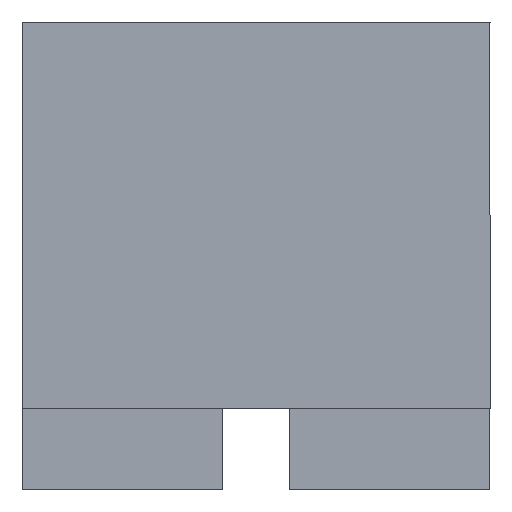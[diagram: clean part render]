
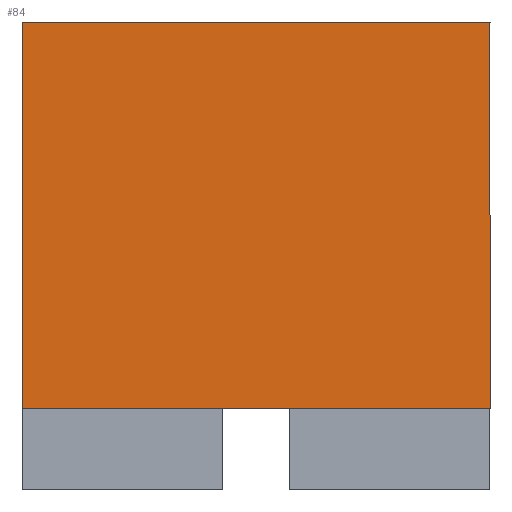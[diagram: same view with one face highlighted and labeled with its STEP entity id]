
A CAD part, left-side view. The second image highlights one B-rep face of the part: STEP entity #84.
In plain terms, the highlighted planar face has unit normal (-1, 0, 0).
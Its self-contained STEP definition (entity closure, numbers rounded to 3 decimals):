
#76 = AXIS2_PLACEMENT_3D ( 'NONE', #609, #355, #138 ) ;
#78 = CARTESIAN_POINT ( 'NONE',  ( -45., 10., -6.5 ) ) ;
#84 = ADVANCED_FACE ( 'NONE', ( #237 ), #489, .F. ) ;
#85 = DIRECTION ( 'NONE',  ( 0., 0., -1. ) ) ;
#93 = CARTESIAN_POINT ( 'NONE',  ( -45., 10., -6.5 ) ) ;
#101 = VECTOR ( 'NONE', #547, 1000. ) ;
#116 = ORIENTED_EDGE ( 'NONE', *, *, #569, .T. ) ;
#138 = DIRECTION ( 'NONE',  ( 0., 0., -1. ) ) ;
#170 = DIRECTION ( 'NONE',  ( 0., 0., -1. ) ) ;
#182 = VECTOR ( 'NONE', #85, 1000. ) ;
#193 = EDGE_CURVE ( 'NONE', #642, #769, #209, .T. ) ;
#209 = LINE ( 'NONE', #78, #483 ) ;
#226 = EDGE_LOOP ( 'NONE', ( #116, #862, #539, #581 ) ) ;
#237 = FACE_OUTER_BOUND ( 'NONE', #226, .T. ) ;
#240 = EDGE_CURVE ( 'NONE', #478, #769, #321, .T. ) ;
#249 = VERTEX_POINT ( 'NONE', #552 ) ;
#273 = CARTESIAN_POINT ( 'NONE',  ( -45., 10., 10. ) ) ;
#295 = LINE ( 'NONE', #740, #101 ) ;
#321 = LINE ( 'NONE', #571, #829 ) ;
#342 = DIRECTION ( 'NONE',  ( 0., -1., 0. ) ) ;
#355 = DIRECTION ( 'NONE',  ( 1., 0., 0. ) ) ;
#427 = CARTESIAN_POINT ( 'NONE',  ( -45., -10., -6.5 ) ) ;
#478 = VERTEX_POINT ( 'NONE', #858 ) ;
#483 = VECTOR ( 'NONE', #342, 1000. ) ;
#489 = PLANE ( 'NONE',  #76 ) ;
#534 = LINE ( 'NONE', #273, #182 ) ;
#539 = ORIENTED_EDGE ( 'NONE', *, *, #240, .F. ) ;
#547 = DIRECTION ( 'NONE',  ( 0., -1., 0. ) ) ;
#552 = CARTESIAN_POINT ( 'NONE',  ( -45., 10., 10. ) ) ;
#569 = EDGE_CURVE ( 'NONE', #249, #642, #534, .T. ) ;
#571 = CARTESIAN_POINT ( 'NONE',  ( -45., -10., 10. ) ) ;
#581 = ORIENTED_EDGE ( 'NONE', *, *, #685, .F. ) ;
#609 = CARTESIAN_POINT ( 'NONE',  ( -45., -10., 10. ) ) ;
#642 = VERTEX_POINT ( 'NONE', #93 ) ;
#685 = EDGE_CURVE ( 'NONE', #249, #478, #295, .T. ) ;
#740 = CARTESIAN_POINT ( 'NONE',  ( -45., -10., 10. ) ) ;
#769 = VERTEX_POINT ( 'NONE', #427 ) ;
#829 = VECTOR ( 'NONE', #170, 1000. ) ;
#858 = CARTESIAN_POINT ( 'NONE',  ( -45., -10., 10. ) ) ;
#862 = ORIENTED_EDGE ( 'NONE', *, *, #193, .T. ) ;
